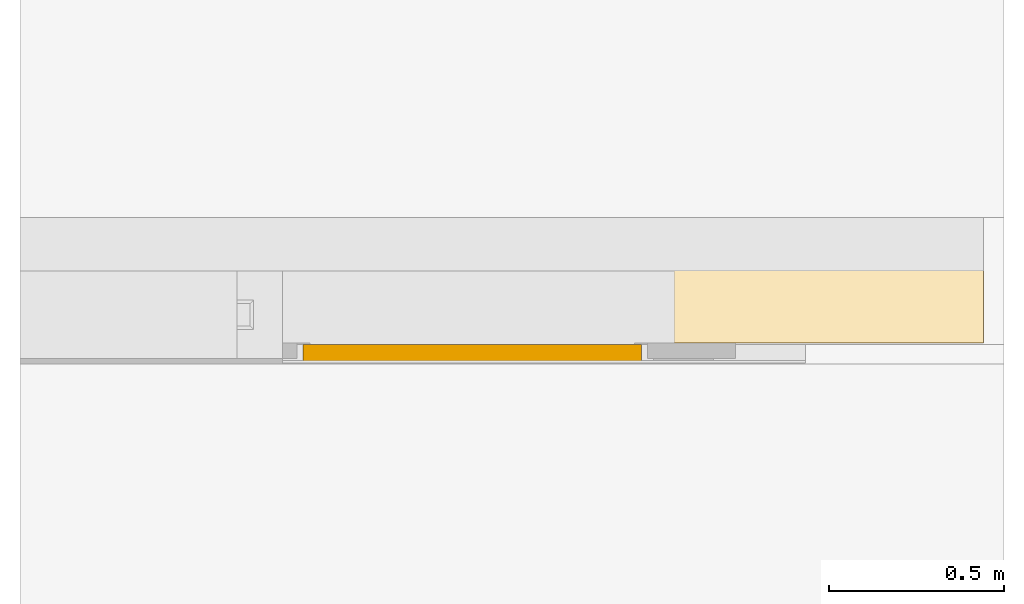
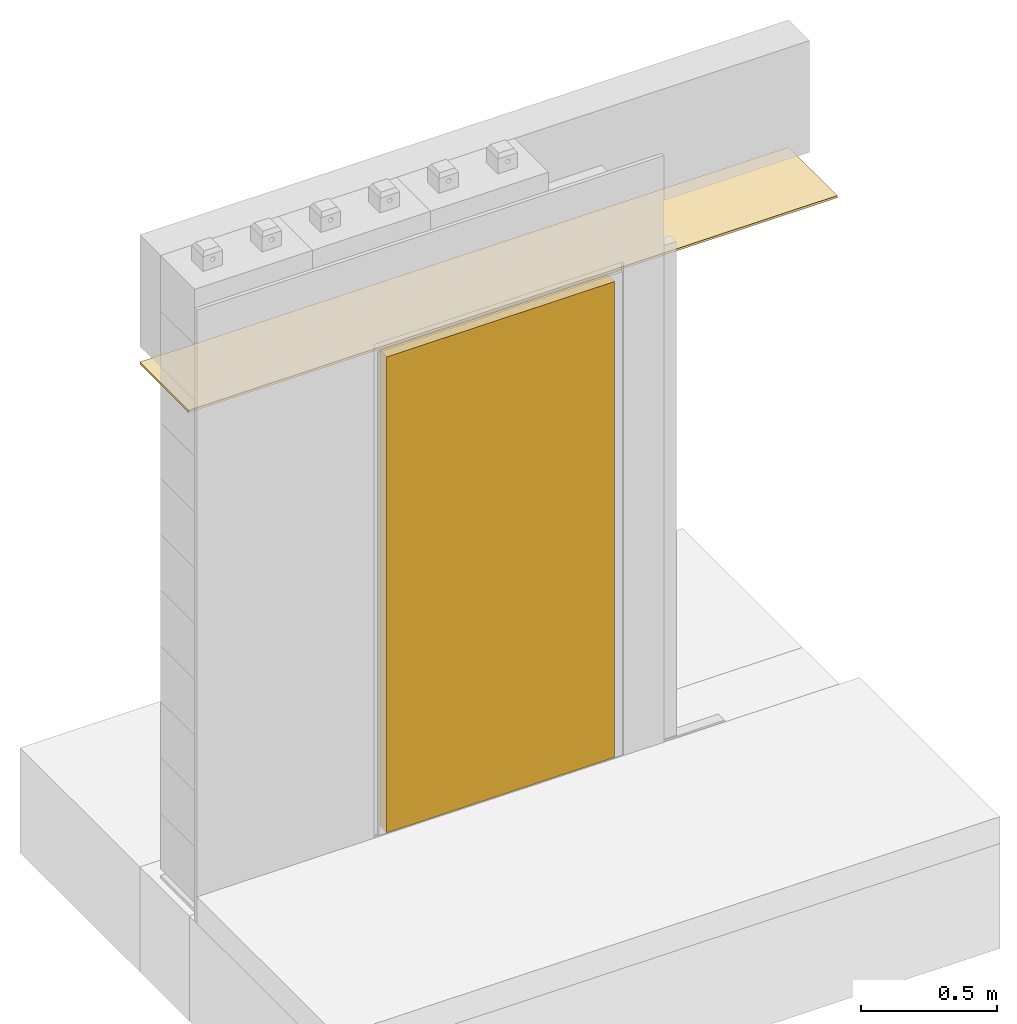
# One storey, part 2 of 3: 1 covering, 1 door.
"""IFC4 building model written with IfcOpenShell, lengths in centimetres."""

from ifc_helpers import new_model, entity, si_unit, converted_unit, direction, frame, origin, place, context, subcontext, project, spatial, indexed_curve, outline, extrude, source, transform, mapped, material, constituent, constituent_set, type_object, type_shapes, element, save


model = new_model("IFC4")

# Units and contexts
model_context = context("Model", 3, precision=0.001, world=origin(), true_north=direction((0.0, 1.0)))
body_context = subcontext(model_context, "Body", "Model", "MODEL_VIEW")
ifc_project = project(units=[si_unit("LENGTHUNIT", "METRE", prefix="CENTI"), si_unit("AREAUNIT", "SQUARE_METRE"), si_unit("VOLUMEUNIT", "CUBIC_METRE"), converted_unit("PLANEANGLEUNIT", "DEGREE", entity("IfcPlaneAngleMeasure", 0.017453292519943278), si_unit("PLANEANGLEUNIT", "RADIAN"), dimensions=[0, 0, 0, 0, 0, 0, 0])], contexts=[model_context])

# Site, building, storey
site_placement = place(None, origin())
site = spatial("IfcSite", under=ifc_project, at=site_placement, Name="Default", CompositionType="ELEMENT")
building_placement = place(site_placement, origin())
building = spatial("IfcBuilding", under=site, at=building_placement, CompositionType="ELEMENT")
storey_placement = place(building_placement, frame((0.0, 0.0, -12.0)))
storey = spatial("IfcBuildingStorey", under=building, at=storey_placement, Name="L00__ABOVE Slab", CompositionType="ELEMENT", Elevation=-12.000000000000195)

# Door
ifc_material_1 = material(Name="<Unnamed>")
door_type = type_object("IfcDoorType", Name="Doors : dor_s__PANEL__Solid__wp : Metal", OperationType="NOTDEFINED", PredefinedType="DOOR", material=ifc_material_1)
shared_shape = source(origin(), body_context, "Body", "SweptSolid", [
    extrude(outline(indexed_curve([(-2.500000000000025, -48.29999999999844), (2.499999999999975, -48.29999999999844), (2.5000000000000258, 48.29999999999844), (-2.4999999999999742, 48.29999999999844), (-2.500000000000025, -48.29999999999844)], self_intersect=False)), frame((-48.299999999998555, -2.5000000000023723, 0.0), z_axis=(0.0, 0.0, 1.0), x_axis=(0.0, -1.0, 0.0)), (0.0, 0.0, 1.0), 213.29999999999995),
])
type_shapes(door_type, [shared_shape])
door_placement = place(storey_placement, frame((2869.549456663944, 1191.871873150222, 16.500000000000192), z_axis=(0.0, 0.0, 1.0), x_axis=(-1.0, 0.0, 0.0)))
element("IfcDoor", 1, at=door_placement, inside=storey, type_object=door_type, material=ifc_material_1, Name="Doors : dor_s__PANEL__Solid__wp : Metal", OverallHeight=5.000000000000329, OverallWidth=96.60000000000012, PredefinedType="DOOR", context=body_context, shape_type="MappedRepresentation", body=[
    mapped(shared_shape, transform((0.0, 0.0, 0.0), scale=1.0)),
])

# Covering
ifc_material_2 = material(Name="_FCD LAYERS__Insulation__Wood-fiber__Steico", Category="Unassigned")
ifc_constituent_1 = constituent(ifc_material_2, Name="_FCD LAYERS__Insulation__Wood-fiber__Steico", Category="Unassigned", fraction=0.875)
ifc_material_3 = material(Name="_STRUCTURE__Wood Solid")
ifc_constituent_2 = constituent(ifc_material_3, Name="_STRUCTURE__Wood Solid", fraction=0.125)
ifc_constituent_set = constituent_set(constituents=[ifc_constituent_1, ifc_constituent_2], Name="Compound Ceiling:clg__INT COVERING__Ins+Wood")
covering_type = type_object("IfcCoveringType", Name="Ceilings : Compound Ceiling : clg__INT COVERING__Ins+Wood", PredefinedType="CEILING")
covering_placement = place(storey_placement, frame((2788.749456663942, 1197.371873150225, 229.80000000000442)))
element("IfcCovering", 2, at=covering_placement, inside=storey, type_object=covering_type, material=ifc_constituent_set, Name="Ceilings : Compound Ceiling : clg__INT COVERING__Ins+Wood", PredefinedType="CEILING", context=body_context, shape_type="SweptSolid", body=[
    extrude(outline(indexed_curve([(-17.900000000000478, -137.50000000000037), (17.900000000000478, -137.50000000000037), (17.900000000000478, 137.49999999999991), (-17.900000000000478, 137.49999999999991), (-17.900000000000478, -137.50000000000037)], self_intersect=False)), frame((137.50000000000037, 17.900000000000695, 0.0), z_axis=(0.0, 0.0, 1.0), x_axis=(0.0, -1.0, 0.0)), (0.0, 0.0, 1.0), 0.9999999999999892),
])

save(model, "model.ifc")
